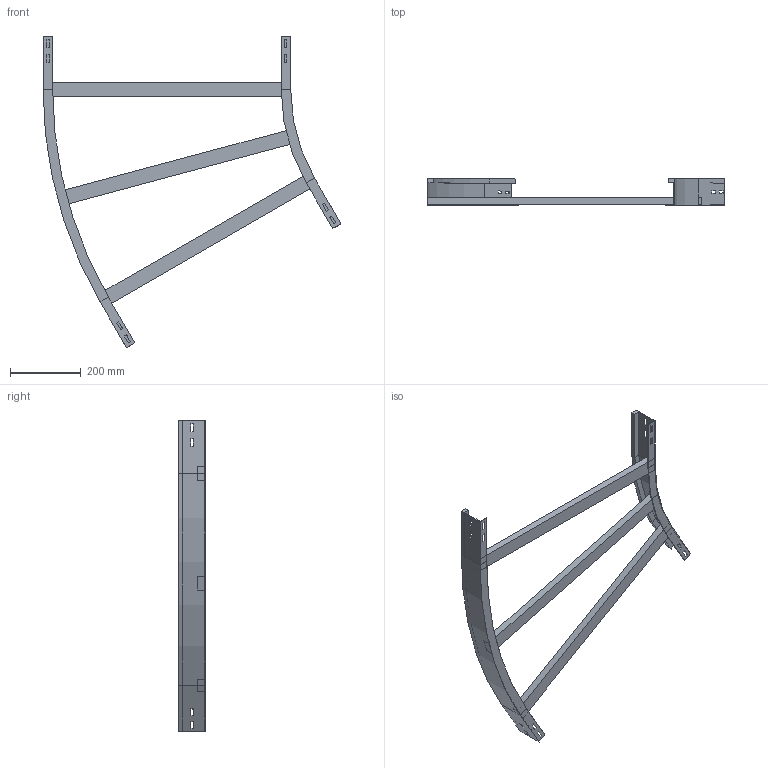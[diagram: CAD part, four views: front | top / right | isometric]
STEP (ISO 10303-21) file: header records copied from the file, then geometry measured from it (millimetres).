
FILE_DESCRIPTION (( 'STEP AP214' ), '1' );
FILE_NAME ('12B5C700.step', '2025-02-21T15:10:17', ( '' ), ( '' ), 'SwSTEP 2.0', 'SolidWorks 2023', '' );
FILE_SCHEMA (( 'AUTOMOTIVE_DESIGN' ));
Length unit declared in the file: millimetre
Products named in the file (4): A2_LONGH.INTERNO 30°_H75_R500; TRAVERSINO_700; 12B5C700; A2_LONGH.ESTERNO 30°_H75_R500+700
Assembly tree (5 placements, depth 2):
  12B5C700
    A2_LONGH.INTERNO 30°_H75_R500
    A2_LONGH.ESTERNO 30°_H75_R500+700
    TRAVERSINO_700  x3
Bounding box: 841.99 x 75 x 879.9 mm (x, y, z)
Volume: 2270478.2 mm3; surface area: 607671.8 mm2
Topology: 5 solids, 5 shells, 134 faces, 340 edges, 216 vertices
Faces by surface type: plane 126, cylinder 8
Entity records: 3821 total; most frequent: CARTESIAN_POINT 646, ORIENTED_EDGE 632, DIRECTION 592, EDGE_CURVE 316, LINE 300, VECTOR 300, VERTEX_POINT 200, EDGE_LOOP 154
